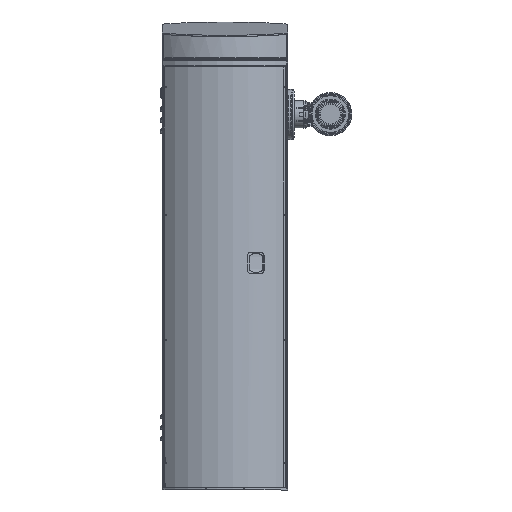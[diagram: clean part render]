
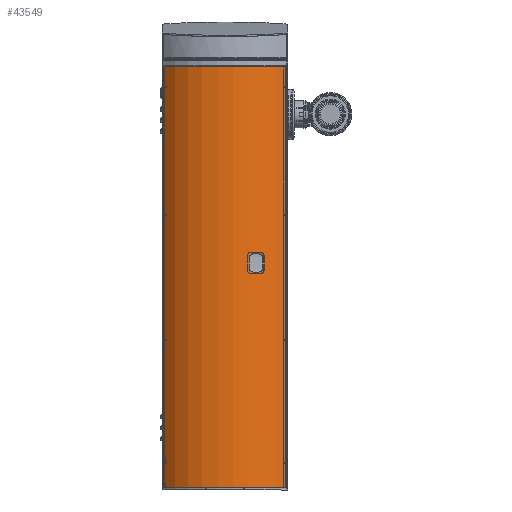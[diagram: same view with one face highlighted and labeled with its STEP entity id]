
A CAD part, left-side view. The second image highlights one B-rep face of the part: STEP entity #43549.
In plain terms, the highlighted cylindrical face has radius 201 mm (diameter 402 mm), a partial arc.
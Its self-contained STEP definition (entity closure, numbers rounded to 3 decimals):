
#1156=CIRCLE('',#50582,201.);
#1157=CIRCLE('',#50583,201.);
#2081=CYLINDRICAL_SURFACE('',#50581,201.);
#2475=B_SPLINE_CURVE_WITH_KNOTS('',3,(#73670,#73671,#73672,#73673,#73674,
#73675,#73676,#73677,#73678,#73679),.UNSPECIFIED.,.F.,.F.,(4,1,1,1,1,1,
1,4),(0.,0.125,0.25,0.375,0.5,0.625,0.75,1.),.UNSPECIFIED.);
#2476=B_SPLINE_CURVE_WITH_KNOTS('',3,(#73742,#73743,#73744,#73745,#73746,
#73747,#73748,#73749,#73750,#73751),.UNSPECIFIED.,.F.,.F.,(4,1,1,1,1,1,
1,4),(0.,0.25,0.375,0.5,0.625,0.75,0.875,1.),.UNSPECIFIED.);
#2480=B_SPLINE_CURVE_WITH_KNOTS('',3,(#73822,#73823,#73824,#73825,#73826,
#73827,#73828,#73829,#73830,#73831,#73832),.UNSPECIFIED.,.F.,.F.,(4,1,1,
1,1,1,1,1,4),(0.,0.125,0.25,0.5,0.625,0.75,0.813,0.875,1.),
 .UNSPECIFIED.);
#2481=B_SPLINE_CURVE_WITH_KNOTS('',3,(#73883,#73884,#73885,#73886,#73887,
#73888,#73889,#73890,#73891,#73892,#73893),.UNSPECIFIED.,.F.,.F.,(4,1,1,
1,1,1,1,1,4),(0.,0.125,0.188,0.25,0.375,0.5,0.75,0.875,1.),
 .UNSPECIFIED.);
#10375=ORIENTED_EDGE('',*,*,#18855,.T.);
#10376=ORIENTED_EDGE('',*,*,#18856,.F.);
#10377=ORIENTED_EDGE('',*,*,#18857,.F.);
#10378=ORIENTED_EDGE('',*,*,#18852,.T.);
#10379=ORIENTED_EDGE('',*,*,#18830,.T.);
#10380=ORIENTED_EDGE('',*,*,#18829,.F.);
#10381=ORIENTED_EDGE('',*,*,#18825,.T.);
#10382=ORIENTED_EDGE('',*,*,#18835,.T.);
#10383=ORIENTED_EDGE('',*,*,#18837,.T.);
#10384=ORIENTED_EDGE('',*,*,#18839,.T.);
#18825=EDGE_CURVE('',#23696,#23695,#2475,.T.);
#18829=EDGE_CURVE('',#23696,#23698,#28121,.T.);
#18830=EDGE_CURVE('',#23699,#23698,#2476,.T.);
#18835=EDGE_CURVE('',#23695,#23702,#2480,.T.);
#18837=EDGE_CURVE('',#23702,#23704,#28124,.T.);
#18839=EDGE_CURVE('',#23704,#23699,#2481,.T.);
#18852=EDGE_CURVE('',#23715,#23714,#28130,.T.);
#18855=EDGE_CURVE('',#23714,#23717,#1156,.T.);
#18856=EDGE_CURVE('',#23718,#23717,#28132,.T.);
#18857=EDGE_CURVE('',#23715,#23718,#1157,.T.);
#23695=VERTEX_POINT('',#73669);
#23696=VERTEX_POINT('',#73680);
#23698=VERTEX_POINT('',#73685);
#23699=VERTEX_POINT('',#73752);
#23702=VERTEX_POINT('',#73821);
#23704=VERTEX_POINT('',#73836);
#23714=VERTEX_POINT('',#73928);
#23715=VERTEX_POINT('',#73930);
#23717=VERTEX_POINT('',#73936);
#23718=VERTEX_POINT('',#73938);
#28121=LINE('',#73687,#32290);
#28124=LINE('',#73837,#32293);
#28130=LINE('',#73929,#32299);
#28132=LINE('',#73937,#32301);
#32290=VECTOR('',#59582,1000.);
#32293=VECTOR('',#59587,1000.);
#32299=VECTOR('',#59615,1000.);
#32301=VECTOR('',#59623,1000.);
#35557=EDGE_LOOP('',(#10375,#10376,#10377,#10378));
#35558=EDGE_LOOP('',(#10379,#10380,#10381,#10382,#10383,#10384));
#38985=FACE_BOUND('',#35557,.T.);
#38986=FACE_BOUND('',#35558,.T.);
#43549=ADVANCED_FACE('',(#38985,#38986),#2081,.T.);
#50581=AXIS2_PLACEMENT_3D('',#73934,#59619,#59620);
#50582=AXIS2_PLACEMENT_3D('',#73935,#59621,#59622);
#50583=AXIS2_PLACEMENT_3D('',#73939,#59624,#59625);
#59582=DIRECTION('',(0.,0.,-1.));
#59587=DIRECTION('',(0.,0.,-1.));
#59615=DIRECTION('',(0.,0.,-1.));
#59619=DIRECTION('',(0.,0.,-1.));
#59620=DIRECTION('',(-1.,0.,0.));
#59621=DIRECTION('',(0.,0.,1.));
#59622=DIRECTION('',(-1.,0.,0.));
#59623=DIRECTION('',(0.,0.,-1.));
#59624=DIRECTION('',(0.,0.,1.));
#59625=DIRECTION('',(-1.,0.,0.));
#73669=CARTESIAN_POINT('',(-172.204,-71.538,542.499));
#73670=CARTESIAN_POINT('',(-177.453,-55.614,534.826));
#73671=CARTESIAN_POINT('',(-177.317,-56.094,535.44));
#73672=CARTESIAN_POINT('',(-177.023,-57.116,536.6));
#73673=CARTESIAN_POINT('',(-176.495,-58.892,538.191));
#73674=CARTESIAN_POINT('',(-175.932,-60.724,539.488));
#73675=CARTESIAN_POINT('',(-175.271,-62.798,540.621));
#73676=CARTESIAN_POINT('',(-174.591,-64.854,541.457));
#73677=CARTESIAN_POINT('',(-173.579,-67.806,542.283));
#73678=CARTESIAN_POINT('',(-172.772,-70.029,542.512));
#73679=CARTESIAN_POINT('',(-172.204,-71.538,542.499));
#73680=CARTESIAN_POINT('',(-177.453,-55.614,534.826));
#73685=CARTESIAN_POINT('',(-177.453,-55.614,505.174));
#73687=CARTESIAN_POINT('',(-177.453,-55.614,969.));
#73742=CARTESIAN_POINT('',(-172.203,-71.54,497.501));
#73743=CARTESIAN_POINT('',(-172.772,-70.03,497.487));
#73744=CARTESIAN_POINT('',(-173.577,-67.809,497.716));
#73745=CARTESIAN_POINT('',(-174.586,-64.869,498.538));
#73746=CARTESIAN_POINT('',(-175.274,-62.791,499.383));
#73747=CARTESIAN_POINT('',(-175.928,-60.736,500.505));
#73748=CARTESIAN_POINT('',(-176.494,-58.896,501.806));
#73749=CARTESIAN_POINT('',(-177.022,-57.119,503.396));
#73750=CARTESIAN_POINT('',(-177.317,-56.095,504.559));
#73751=CARTESIAN_POINT('',(-177.453,-55.614,505.174));
#73752=CARTESIAN_POINT('',(-172.203,-71.54,497.501));
#73821=CARTESIAN_POINT('',(-165.37,-87.546,534.826));
#73822=CARTESIAN_POINT('',(-172.204,-71.538,542.499));
#73823=CARTESIAN_POINT('',(-171.916,-72.303,542.506));
#73824=CARTESIAN_POINT('',(-171.333,-73.822,542.434));
#73825=CARTESIAN_POINT('',(-170.121,-76.868,541.937));
#73826=CARTESIAN_POINT('',(-168.932,-79.708,540.964));
#73827=CARTESIAN_POINT('',(-167.731,-82.445,539.466));
#73828=CARTESIAN_POINT('',(-167.048,-83.957,538.399));
#73829=CARTESIAN_POINT('',(-166.49,-85.17,537.376));
#73830=CARTESIAN_POINT('',(-165.966,-86.295,536.307));
#73831=CARTESIAN_POINT('',(-165.599,-87.067,535.436));
#73832=CARTESIAN_POINT('',(-165.37,-87.546,534.826));
#73836=CARTESIAN_POINT('',(-165.37,-87.546,505.174));
#73837=CARTESIAN_POINT('',(-165.37,-87.546,969.));
#73883=CARTESIAN_POINT('',(-165.37,-87.546,505.174));
#73884=CARTESIAN_POINT('',(-165.599,-87.067,504.565));
#73885=CARTESIAN_POINT('',(-165.965,-86.296,503.694));
#73886=CARTESIAN_POINT('',(-166.49,-85.171,502.626));
#73887=CARTESIAN_POINT('',(-167.047,-83.959,501.602));
#73888=CARTESIAN_POINT('',(-167.731,-82.445,500.534));
#73889=CARTESIAN_POINT('',(-168.931,-79.709,499.036));
#73890=CARTESIAN_POINT('',(-170.122,-76.866,498.063));
#73891=CARTESIAN_POINT('',(-171.333,-73.823,497.566));
#73892=CARTESIAN_POINT('',(-171.915,-72.304,497.494));
#73893=CARTESIAN_POINT('',(-172.203,-71.54,497.501));
#73928=CARTESIAN_POINT('',(-126.221,141.436,6.));
#73929=CARTESIAN_POINT('',(-126.221,141.436,969.));
#73930=CARTESIAN_POINT('',(-126.221,141.436,969.));
#73934=CARTESIAN_POINT('',(15.9,-0.7,969.));
#73935=CARTESIAN_POINT('',(15.9,-0.7,6.));
#73936=CARTESIAN_POINT('',(-126.221,-142.836,6.));
#73937=CARTESIAN_POINT('',(-126.221,-142.836,969.));
#73938=CARTESIAN_POINT('',(-126.221,-142.836,969.));
#73939=CARTESIAN_POINT('',(15.9,-0.7,969.));
